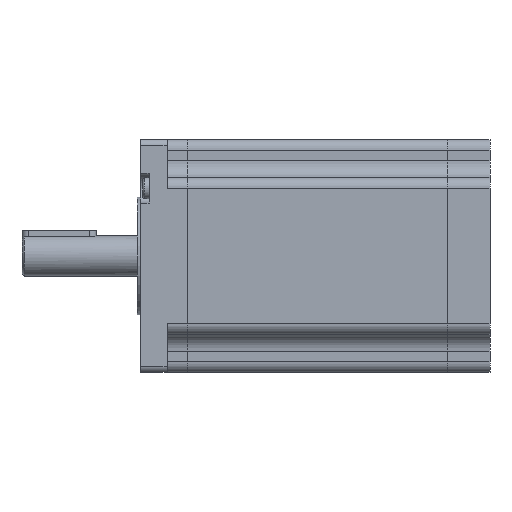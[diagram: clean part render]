
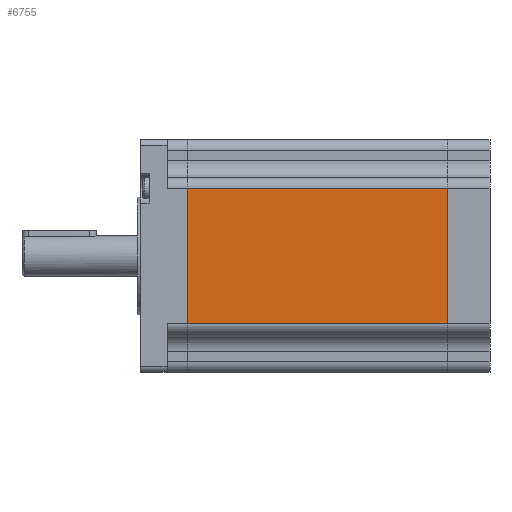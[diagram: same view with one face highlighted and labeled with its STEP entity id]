
A CAD part, front view. The second image highlights one B-rep face of the part: STEP entity #6755.
In plain terms, the highlighted planar face has unit normal (0, -1, 0).
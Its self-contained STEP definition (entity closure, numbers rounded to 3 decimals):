
#1752 = CARTESIAN_POINT ( 'NONE',  ( -32., -55., 123. ) ) ;
#1756 = LINE ( 'NONE', #1752, #1760 ) ;
#1760 = VECTOR ( 'NONE', #1905, 1000. ) ;
#1905 = DIRECTION ( 'NONE',  ( 0., 0., -1. ) ) ;
#2211 = CARTESIAN_POINT ( 'NONE',  ( -32., -55., 0. ) ) ;
#2377 = DIRECTION ( 'NONE',  ( 1., 0., 0. ) ) ;
#2378 = VECTOR ( 'NONE', #2377, 1000. ) ;
#2379 = CARTESIAN_POINT ( 'NONE',  ( 0., -55., 0. ) ) ;
#2384 = CARTESIAN_POINT ( 'NONE',  ( -32., -55., 123. ) ) ;
#2395 = LINE ( 'NONE', #2379, #2378 ) ;
#2405 = CARTESIAN_POINT ( 'NONE',  ( 32., -55., 0. ) ) ;
#2407 = FACE_OUTER_BOUND ( 'NONE', #6664, .T. ) ;
#2417 = CARTESIAN_POINT ( 'NONE',  ( 32., -55., 123. ) ) ;
#2429 = PLANE ( 'NONE',  #2431 ) ;
#2431 = AXIS2_PLACEMENT_3D ( 'NONE', #2436, #2435, #2456 ) ;
#2435 = DIRECTION ( 'NONE',  ( 0., 1., 0. ) ) ;
#2436 = CARTESIAN_POINT ( 'NONE',  ( 0., -55., 123. ) ) ;
#2456 = DIRECTION ( 'NONE',  ( 0., 0., 1. ) ) ;
#2476 = DIRECTION ( 'NONE',  ( 1., 0., 0. ) ) ;
#2478 = DIRECTION ( 'NONE',  ( 0., 0., -1. ) ) ;
#2479 = VECTOR ( 'NONE', #2478, 1000. ) ;
#2480 = CARTESIAN_POINT ( 'NONE',  ( 32., -55., 123. ) ) ;
#2488 = CARTESIAN_POINT ( 'NONE',  ( 0., -55., 123. ) ) ;
#2489 = LINE ( 'NONE', #2488, #2516 ) ;
#2501 = LINE ( 'NONE', #2480, #2479 ) ;
#2516 = VECTOR ( 'NONE', #2476, 1000. ) ;
#6664 = EDGE_LOOP ( 'NONE', ( #6787, #6786, #6785, #6752 ) ) ;
#6673 = VERTEX_POINT ( 'NONE', #2211 ) ;
#6675 = EDGE_CURVE ( 'NONE', #6722, #6673, #1756, .T. ) ;
#6722 = VERTEX_POINT ( 'NONE', #2384 ) ;
#6728 = EDGE_CURVE ( 'NONE', #6673, #6753, #2395, .T. ) ;
#6751 = VERTEX_POINT ( 'NONE', #2417 ) ;
#6752 = ORIENTED_EDGE ( 'NONE', *, *, #6675, .T. ) ;
#6753 = VERTEX_POINT ( 'NONE', #2405 ) ;
#6755 = ADVANCED_FACE ( 'NONE', ( #2407 ), #2429, .F. ) ;
#6785 = ORIENTED_EDGE ( 'NONE', *, *, #6789, .F. ) ;
#6786 = ORIENTED_EDGE ( 'NONE', *, *, #6788, .F. ) ;
#6787 = ORIENTED_EDGE ( 'NONE', *, *, #6728, .T. ) ;
#6788 = EDGE_CURVE ( 'NONE', #6751, #6753, #2501, .T. ) ;
#6789 = EDGE_CURVE ( 'NONE', #6722, #6751, #2489, .T. ) ;
